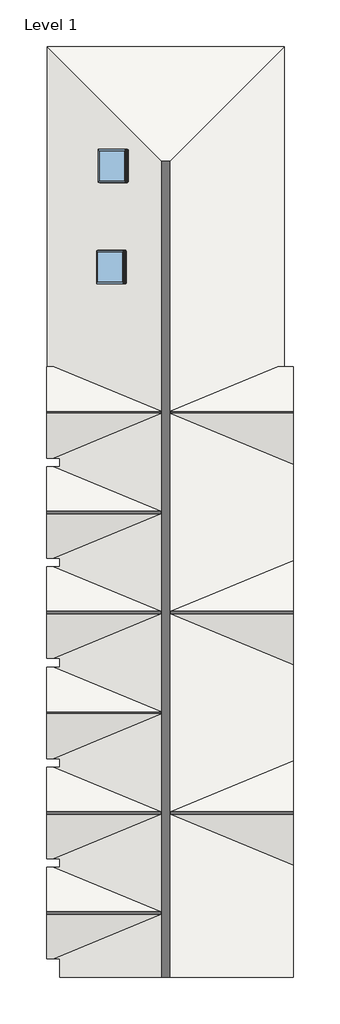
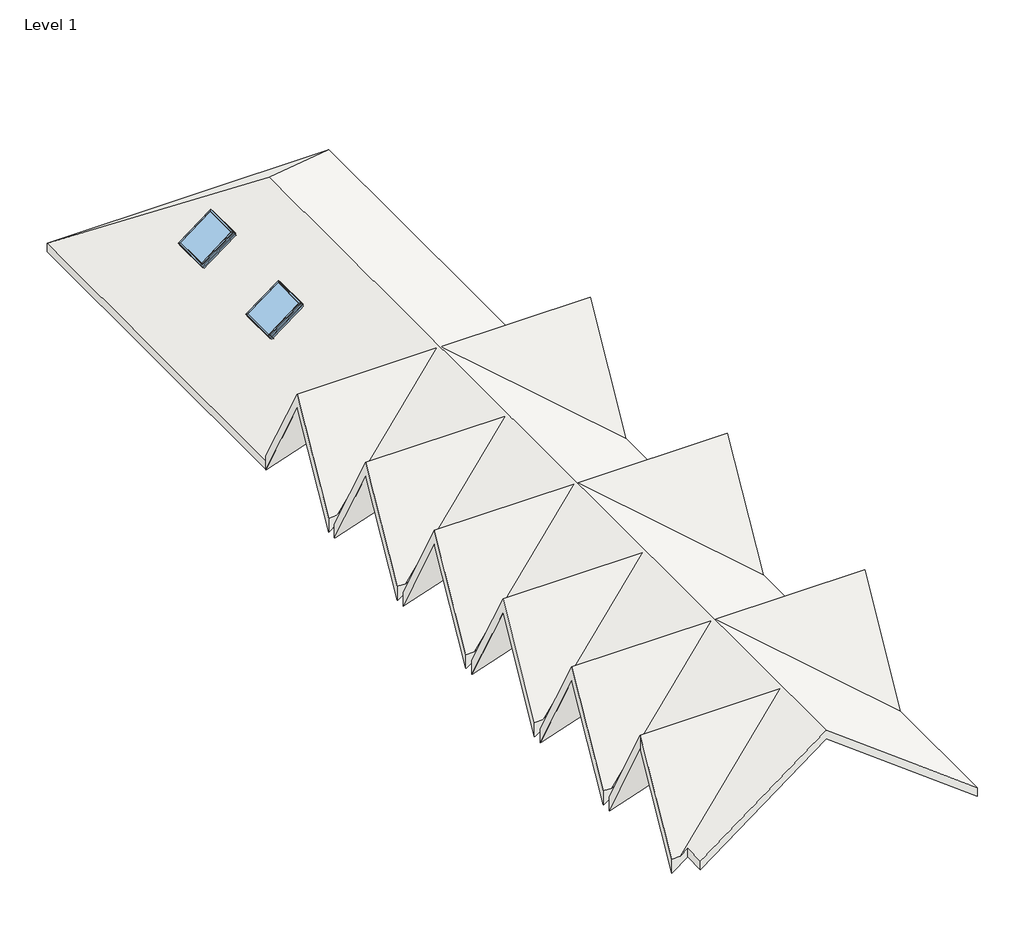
# One storey: 2 windows, 1 roof.
"""IFC4 building model written with IfcOpenShell, lengths in millimetres."""

from ifc_helpers import new_model, si_unit, origin, place, context, project, spatial, faceted_brep, transform, mapped, element, save
from components import window_42eaca1e

model = new_model("IFC4")

# Units and contexts
model_context = context("Model", 3, world=origin())
ifc_project = project(units=[si_unit("LENGTHUNIT", "METRE", prefix="MILLI")], contexts=[model_context])

# Site, building, storey
site = spatial("IfcSite", under=ifc_project)
building = spatial("IfcBuilding", under=site)
storey = spatial("IfcBuildingStorey", under=building, Name="Level 1", Elevation=0.0)

# Roof
placement = place(None, origin())
element("IfcRoof", 1, ObjectType="Wood Rafter 8\" - Asphalt Shingle", at=placement, inside=storey, context=model_context, shape_type="Brep", body=[
    faceted_brep([(-5005.5073344, -209.5141991, -2057.4), (-5024.8196365, -209.5141991, -2057.4), (-5024.8196365, 1390.6858009, 838.2), (-1144.7073344, 1390.6858009, 838.2), (-5024.8196365, -514.3141991, -2057.4), (-5005.5073344, -514.3141991, -2057.4), (-1144.7073344, -2114.5141991, 838.2), (-5024.8196365, -2114.5141991, 838.2), (-5005.5073344, -3714.7141991, -2057.4), (-5024.8196365, -3714.7141991, -2057.4), (-5024.8196365, -4019.5141991, -2057.4), (-5005.5073344, -4019.5141991, -2057.4), (-1144.7073344, -5619.7141991, 838.2), (-5024.8196365, -5619.7141991, 838.2), (-5005.5073344, -7219.9141991, -2057.4), (-5024.8196365, -7219.9141991, -2057.4), (-5005.5073344, -10725.1141991, -2057.4), (-5024.8196365, -10725.1141991, -2057.4), (-5024.8196365, -9124.9141991, 838.2), (-1144.7073344, -9124.9141991, 838.2), (-5024.8196365, -12630.1141991, 838.2), (-5024.8196365, -11029.9141991, -2057.4), (-5005.5073344, -11029.9141991, -2057.4), (-1144.7073344, -12630.1141991, 838.2), (-5005.5073344, -14230.3141991, -2057.4), (-5024.8196365, -14230.3141991, -2057.4), (-5024.8196365, -16135.3141991, 838.2), (-5024.8196365, -14535.1141991, -2057.4), (-5005.5073344, -14535.1141991, -2057.4), (-1144.7073344, -16135.3141991, 838.2), (-5005.5073344, -17735.5141991, -2057.4), (-5024.8196365, -17735.5141991, -2057.4), (3300.2926656, 2990.8858009, -2057.4), (3611.1803635, 2990.8858009, -2057.4), (3611.1803635, 1390.6858009, 838.2), (-560.5073344, 1390.6858009, 838.2), (3300.2926656, 14188.3298598, -2057.4), (-852.6073344, 10035.4298598, 1057.275), (-5005.5073344, 14188.3298598, -2057.4), (-5024.8196365, 2990.8858009, -2057.4), (-5005.5073344, 2990.8858009, -2057.4), (-5024.8196365, -7524.7141991, -2057.4), (-5005.5073344, -7524.7141991, -2057.4), (3611.1803635, -5619.7141991, 838.2), (-560.5073344, -5619.7141991, 838.2), (3611.1803635, -3890.6594296, -2290.5657734), (3611.1803635, -338.3689686, -2290.5657734), (3611.1803635, -18386.3891991, -2290.5657734), (-852.6073344, -18386.3891991, 1057.275), (3611.1803635, -7348.7689686, -2290.5657734), (3611.1803635, -10901.0594296, -2290.5657734), (-560.5073344, -12630.1141991, 838.2), (3611.1803635, -14359.1689686, -2290.5657734), (3611.1803635, -12630.1141991, 838.2), (-4554.9196365, -209.5141991, -1719.4592266), (-4554.9196365, -18386.3891991, -1719.4592266), (-4554.9196365, -17735.5141991, -1719.4592266), (-4554.9196365, -14535.1141991, -1719.4592266), (-4554.9196365, -14230.3141991, -1719.4592266), (-4554.9196365, -11029.9141991, -1719.4592266), (-4554.9196365, -10725.1141991, -1719.4592266), (-4554.9196365, -7524.7141991, -1719.4592266), (-4554.9196365, -7219.9141991, -1719.4592266), (-4554.9196365, -4019.5141991, -1719.4592266), (-4554.9196365, -3714.7141991, -1719.4592266), (-4554.9196365, -514.3141991, -1719.4592266), (-2939.3601139, 10530.8121615, -507.7895846), (-2939.3601139, 9502.1121615, -507.7895846), (-2075.7601139, 9502.1121615, 139.9104154), (-2075.7601139, 10530.8121615, 139.9104154), (-2997.8648803, 6981.0798598, -551.6681594), (-2997.8648803, 5952.3798598, -551.6681594), (-2134.2648803, 5952.3798598, 96.0318406), (-2134.2648803, 6981.0798598, 96.0318406), (-5024.8196365, -209.5141991, -1624.1644885), (-4777.1099857, -209.5141991, -1624.1644885), (-916.3099857, 1390.6858009, 1271.4355115), (-5024.8196365, 1390.6858009, 1271.4355115), (-5024.8196365, -514.3141991, -1624.1644885), (-5024.8196365, -2114.5141991, 1271.4355115), (-916.3099857, -2114.5141991, 1271.4355115), (-4777.1099857, -514.3141991, -1624.1644885), (-5024.8196365, -3714.7141991, -1624.1644885), (-4777.1099857, -3714.7141991, -1624.1644885), (-5024.8196365, -4019.5141991, -1624.1644885), (-5024.8196365, -5619.7141991, 1271.4355115), (-916.3099857, -5619.7141991, 1271.4355115), (-4777.1099857, -4019.5141991, -1624.1644885), (-5024.8196365, -7219.9141991, -1624.1644885), (-4777.1099857, -7219.9141991, -1624.1644885), (-5024.8196365, -10725.1141991, -1624.1644885), (-4777.1099857, -10725.1141991, -1624.1644885), (-916.3099857, -9124.9141991, 1271.4355115), (-5024.8196365, -9124.9141991, 1271.4355115), (-5024.8196365, -11029.9141991, -1624.1644885), (-5024.8196365, -12630.1141991, 1271.4355115), (-916.3099857, -12630.1141991, 1271.4355115), (-4777.1099857, -11029.9141991, -1624.1644885), (-5024.8196365, -14230.3141991, -1624.1644885), (-4777.1099857, -14230.3141991, -1624.1644885), (-5024.8196365, -14535.1141991, -1624.1644885), (-5024.8196365, -16135.3141991, 1271.4355115), (-916.3099857, -16135.3141991, 1271.4355115), (-4777.1099857, -14535.1141991, -1624.1644885), (-5024.8196365, -17735.5141991, -1624.1644885), (-4777.1099857, -17735.5141991, -1624.1644885), (3300.2926656, 14188.3298598, -1795.4625), (-5005.5073344, 14188.3298598, -1795.4625), (-852.6073344, 10035.4298598, 1319.2125), (-5024.8196365, 2990.8858009, -1624.1644885), (-4777.1099857, 2990.8858009, -1624.1644885), (-5005.5073344, 2990.8858009, -1624.1644885), (3611.1803635, 2990.8858009, -1624.1644885), (3300.2926656, 2990.8858009, -1624.1644885), (3071.8953169, 2990.8858009, -1624.1644885), (-788.9046831, 1390.6858009, 1271.4355115), (3611.1803635, 1390.6858009, 1271.4355115), (3611.1803635, -433.0336592, -2028.6282734), (-5024.8196365, -7524.7141991, -1624.1644885), (-4777.1099857, -7524.7141991, -1624.1644885), (3611.1803635, -10806.3947391, -2028.6282734), (-788.9046831, -12630.1141991, 1271.4355115), (3611.1803635, -12630.1141991, 1271.4355115), (3611.1803635, -14453.8336592, -2028.6282734), (3611.1803635, -18386.3891991, -2028.6282734), (3611.1803635, -7443.4336592, -2028.6282734), (-788.9046831, -5619.7141991, 1271.4355115), (3611.1803635, -3795.9947391, -2028.6282734), (3300.2926656, 2990.8858009, -1795.4625), (-852.6073344, -18386.3891991, 1319.2125), (3611.1803635, -5619.7141991, 1271.4355115), (-4554.9196365, -209.5141991, -1457.5217266), (-4554.9196365, -514.3141991, -1457.5217266), (-4554.9196365, -3714.7141991, -1457.5217266), (-4554.9196365, -4019.5141991, -1457.5217266), (-4554.9196365, -7219.9141991, -1457.5217266), (-4554.9196365, -7524.7141991, -1457.5217266), (-4554.9196365, -10725.1141991, -1457.5217266), (-4554.9196365, -11029.9141991, -1457.5217266), (-4554.9196365, -14230.3141991, -1457.5217266), (-4554.9196365, -14535.1141991, -1457.5217266), (-4554.9196365, -17735.5141991, -1457.5217266), (-4554.9196365, -18386.3891991, -1457.5217266), (-5005.5073344, 2990.8858009, -1795.4625), (-3065.0901139, 10530.8121615, -340.1495846), (-2201.4901139, 10530.8121615, 307.5504154), (-2201.4901139, 9502.1121615, 307.5504154), (-3065.0901139, 9502.1121615, -340.1495846), (-3123.5948803, 6981.0798598, -384.0281594), (-2259.9948803, 6981.0798598, 263.6718406), (-2259.9948803, 5952.3798598, 263.6718406), (-3123.5948803, 5952.3798598, -384.0281594)], [[[0, 1, 2, 3]], [[4, 5, 6, 7]], [[8, 9, 7, 6]], [[10, 11, 12, 13]], [[14, 15, 13, 12]], [[16, 17, 18, 19]], [[20, 21, 22, 23]], [[24, 25, 20, 23]], [[26, 27, 28, 29]], [[26, 29, 30, 31]], [[32, 33, 34, 35]], [[36, 37, 38]], [[39, 40, 3, 2]], [[41, 42, 19, 18]], [[43, 44, 45]], [[35, 34, 46]], [[47, 48, 37, 36, 32, 35, 46, 45, 44, 49, 50, 51, 52]], [[50, 53, 51]], [[44, 43, 49]], [[54, 0, 3, 40, 38, 37, 48, 55, 56, 30, 29, 28, 57, 58, 24, 23, 22, 59, 60, 16, 19, 42, 61, 62, 14, 12, 11, 63, 64, 8, 6, 5, 65], [66, 67, 68, 69], [70, 71, 72, 73]], [[51, 53, 52]], [[74, 75, 76, 77]], [[78, 79, 80, 81]], [[82, 83, 80, 79]], [[84, 85, 86, 87]], [[88, 89, 86, 85]], [[90, 91, 92, 93]], [[94, 95, 96, 97]], [[98, 99, 96, 95]], [[100, 101, 102, 103]], [[101, 104, 105, 102]], [[106, 107, 108]], [[109, 77, 76, 110, 111]], [[112, 113, 114, 115, 116]], [[116, 115, 117]], [[118, 93, 92, 119]], [[120, 121, 122]], [[122, 121, 123]], [[124, 123, 121, 120, 125, 126, 127, 117, 115, 114, 128, 106, 108, 129]], [[130, 126, 125]], [[131, 132, 81, 80, 83, 133, 134, 87, 86, 89, 135, 136, 119, 92, 91, 137, 138, 97, 96, 99, 139, 140, 103, 102, 105, 141, 142, 129, 108, 107, 143, 110, 76, 75], [144, 145, 146, 147], [148, 149, 150, 151]], [[127, 126, 130]], [[36, 106, 128, 32]], [[38, 107, 106, 36]], [[40, 143, 107, 38]], [[74, 77, 109, 39, 2, 1]], [[82, 79, 78, 4, 7, 9]], [[88, 85, 84, 10, 13, 15]], [[90, 93, 118, 41, 18, 17]], [[98, 95, 94, 21, 20, 25]], [[101, 100, 27, 26]], [[124, 129, 142, 55, 48, 47]], [[112, 116, 117, 127, 130, 125, 120, 122, 123, 124, 47, 52, 53, 50, 49, 43, 45, 46, 34, 33]], [[78, 81, 132, 65, 5, 4]], [[132, 131, 54, 65]], [[134, 133, 64, 63]], [[84, 87, 134, 63, 11, 10]], [[136, 135, 62, 61]], [[118, 119, 136, 61, 42, 41]], [[135, 89, 88, 15, 14, 62]], [[133, 83, 82, 9, 8, 64]], [[137, 91, 90, 17, 16, 60]], [[138, 137, 60, 59]], [[94, 97, 138, 59, 22, 21]], [[139, 99, 98, 25, 24, 58]], [[140, 139, 58, 57]], [[100, 103, 140, 57, 28, 27]], [[141, 105, 104, 31, 30, 56]], [[142, 141, 56, 55]], [[131, 75, 74, 1, 0, 54]], [[109, 111, 110, 143, 40, 39]], [[104, 101, 26, 31]], [[128, 114, 113, 112, 33, 32]], [[145, 144, 66, 69]], [[146, 145, 69, 68]], [[147, 146, 68, 67]], [[144, 147, 67, 66]], [[149, 148, 70, 73]], [[150, 149, 73, 72]], [[151, 150, 72, 71]], [[148, 151, 71, 70]]]),
])

# Windows
window_shape = window_42eaca1e(model_context)
element("IfcWindow", 2, ObjectType="Skylight : 44\" x 46\"", at=placement, inside=storey, context=model_context, shape_type="MappedRepresentation", body=[
    mapped(window_shape, transform((-463.9568349, 10295.4220885, -3223.2371254), x_axis=(0.0, 0.9999999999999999, 0.0), y_axis=(-0.7999999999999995, 0.0, -0.6000000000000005), z_axis=(-0.6000000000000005, 0.0, 0.7999999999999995))),
])
element("IfcWindow", 3, ObjectType="Skylight : 44\" x 46\"", at=placement, inside=storey, context=model_context, shape_type="MappedRepresentation", body=[
    mapped(window_shape, transform((-522.4616013, 6745.6897868, -3267.1157001), x_axis=(0.0, 0.9999999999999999, 0.0), y_axis=(-0.7999999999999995, 0.0, -0.6000000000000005), z_axis=(-0.6000000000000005, 0.0, 0.7999999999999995))),
])

save(model, "model.ifc")
